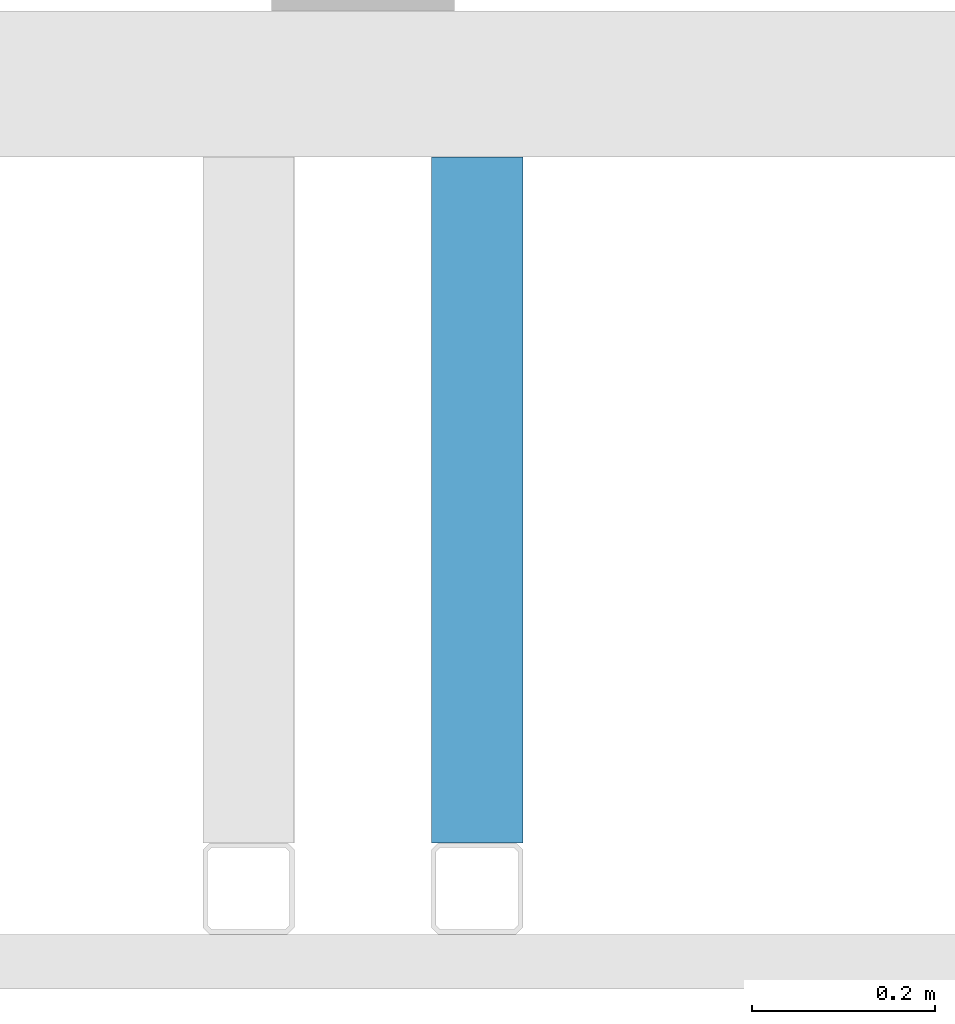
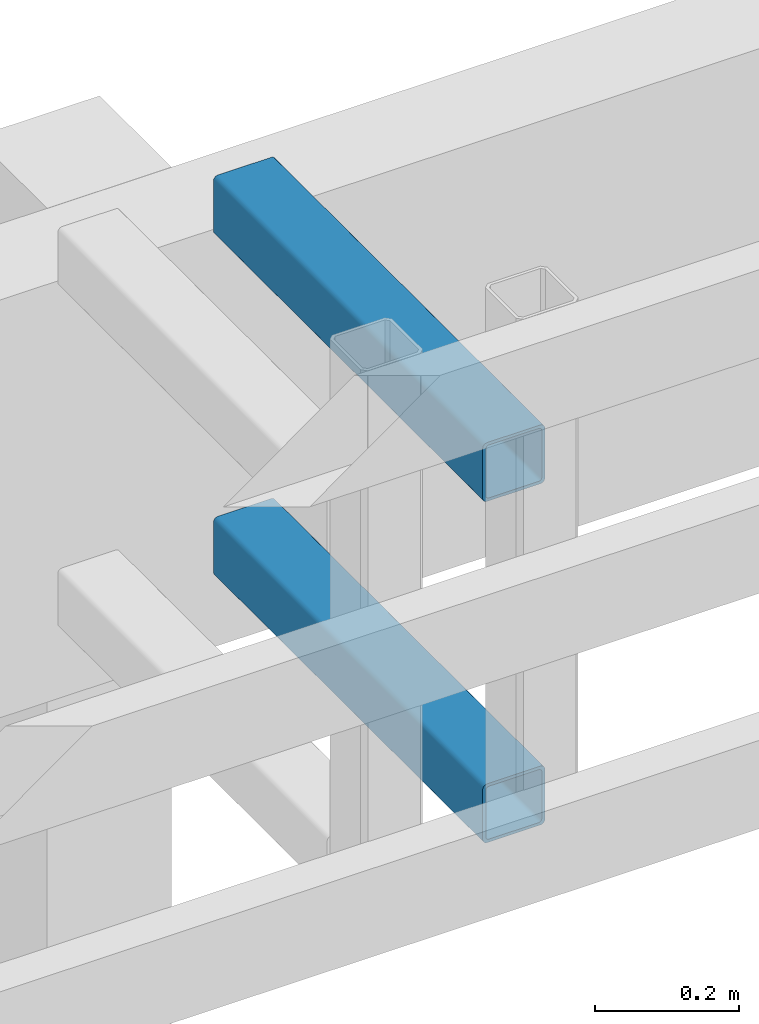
# One storey, part 27 of 42: 2 members.
"""IFC4 building model written with IfcOpenShell, lengths in metres."""

from ifc_helpers import new_model, entity, si_unit, converted_unit, derived_unit, frame, origin, place, context, subcontext, project, spatial, faceted_brep, material, element, save


model = new_model("IFC4")

# Units and contexts
model_context = context("Model", 3, precision=1e-05, world=origin())
plan_context = context("Plan", 2, precision=1e-05, world=origin())
body_context = subcontext(model_context, "Body", "Model", "MODEL_VIEW")
ifc_project = project(units=[si_unit("LENGTHUNIT", "METRE"), si_unit("AREAUNIT", "SQUARE_METRE"), si_unit("VOLUMEUNIT", "CUBIC_METRE"), si_unit("MASSUNIT", "GRAM", prefix="KILO"), converted_unit("PLANEANGLEUNIT", "DEGREE", entity("IfcPlaneAngleMeasure", 0.0174532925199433), si_unit("PLANEANGLEUNIT", "RADIAN"), dimensions=[0, 0, 0, 0, 0, 0, 0]), derived_unit("THERMALTRANSMITTANCEUNIT", [(si_unit("POWERUNIT", "WATT"), 1), (si_unit("THERMODYNAMICTEMPERATUREUNIT", "KELVIN"), -1), (si_unit("LENGTHUNIT", "METRE"), -2)]), derived_unit("VOLUMETRICFLOWRATEUNIT", [(si_unit("LENGTHUNIT", "METRE"), 3), (converted_unit("TIMEUNIT", "hour", entity("IfcTimeMeasure", 3600.0), si_unit("TIMEUNIT", "SECOND"), dimensions=[0, 0, 1, 0, 0, 0, 0]), -1), (si_unit("LENGTHUNIT", "METRE"), -1)])], contexts=[model_context, plan_context])

# Site, building, storey
site_placement = place(None, origin())
site = spatial("IfcSite", under=ifc_project, at=site_placement, Name="Site", CompositionType="ELEMENT")
building_placement = place(site_placement, origin())
building = spatial("IfcBuilding", under=site, at=building_placement, Name="Admin", CompositionType="ELEMENT")
storey_placement = place(building_placement, frame((0.0, 0.0, 6.61)))
storey = spatial("IfcBuildingStorey", under=building, at=storey_placement, Name="02-Etage2", CompositionType="ELEMENT", Elevation=6.61)

# Members
ifc_material_1 = material(Name="S235")
member_1_placement = place(storey_placement, frame((52.6248010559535, 11.1194493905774, 2.28)))
element("IfcMember", 1, at=member_1_placement, inside=storey, material=ifc_material_1, Name="Bandeau R+2", context=body_context, shape_type="Brep", body=[
    faceted_brep([(0.0950000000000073, 0.0, 0.09), (0.0950000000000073, 0.0, 0.01), (0.0950000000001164, 0.749999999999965, 0.01), (0.0950000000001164, 0.749999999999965, 0.09), (0.0949240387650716, 0.0, 0.0908682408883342), (0.0949240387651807, 0.749999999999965, 0.0908682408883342), (0.0946984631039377, 0.0, 0.0917101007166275), (0.0946984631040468, 0.749999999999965, 0.0917101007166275), (0.0943301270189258, 0.0, 0.0925), (0.094330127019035, 0.749999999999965, 0.0925), (0.0938302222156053, 0.0, 0.0932139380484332), (0.0938302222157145, 0.749999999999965, 0.0932139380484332), (0.0932139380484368, 1.81898940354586e-15, 0.0938302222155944), (0.093213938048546, 0.749999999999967, 0.0938302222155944), (0.0925000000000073, 1.81898940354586e-15, 0.0943301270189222), (0.0925000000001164, 0.749999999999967, 0.0943301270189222), (0.0917101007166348, 1.81898940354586e-15, 0.0946984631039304), (0.0917101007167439, 0.749999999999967, 0.0946984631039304), (0.0908682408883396, 1.81898940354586e-15, 0.0949240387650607), (0.0908682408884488, 0.749999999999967, 0.0949240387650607), (0.0900000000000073, 1.81898940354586e-15, 0.095), (0.0900000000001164, 0.749999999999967, 0.095), (0.0100000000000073, 1.2732925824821e-14, 0.095), (0.0100000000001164, 0.749999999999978, 0.095), (0.00913175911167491, 1.2732925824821e-14, 0.0949240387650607), (0.00913175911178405, 0.749999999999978, 0.0949240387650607), (0.00828989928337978, 1.2732925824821e-14, 0.0946984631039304), (0.00828989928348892, 0.749999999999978, 0.0946984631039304), (0.00750000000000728, 1.2732925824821e-14, 0.0943301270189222), (0.00750000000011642, 0.749999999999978, 0.0943301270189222), (0.00678606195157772, 1.2732925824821e-14, 0.0938302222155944), (0.00678606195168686, 0.749999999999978, 0.0938302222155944), (0.00616977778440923, 1.45519152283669e-14, 0.0932139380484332), (0.00616977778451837, 0.74999999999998, 0.0932139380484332), (0.0056698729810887, 1.45519152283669e-14, 0.0925), (0.00566987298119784, 0.74999999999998, 0.0925), (0.00530153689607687, 1.45519152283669e-14, 0.0917101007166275), (0.00530153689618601, 0.74999999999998, 0.0917101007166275), (0.00507596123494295, 1.45519152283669e-14, 0.0908682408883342), (0.00507596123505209, 0.74999999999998, 0.0908682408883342), (0.00500000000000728, 1.45519152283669e-14, 0.09), (0.00500000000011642, 0.74999999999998, 0.09), (0.00500000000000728, 1.45519152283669e-14, 0.01), (0.00500000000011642, 0.74999999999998, 0.01), (0.00507596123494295, 1.45519152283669e-14, 0.00913175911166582), (0.00507596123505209, 0.74999999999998, 0.00913175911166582), (0.00530153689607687, 1.45519152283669e-14, 0.00828989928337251), (0.00530153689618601, 0.74999999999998, 0.00828989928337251), (0.0056698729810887, 1.45519152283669e-14, 0.0075), (0.00566987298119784, 0.74999999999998, 0.0075), (0.00616977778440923, 1.45519152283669e-14, 0.00678606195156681), (0.00616977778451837, 0.74999999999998, 0.00678606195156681), (0.00678606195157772, 1.2732925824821e-14, 0.0061697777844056), (0.00678606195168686, 0.749999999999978, 0.0061697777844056), (0.00750000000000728, 1.2732925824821e-14, 0.00566987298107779), (0.00750000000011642, 0.749999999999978, 0.00566987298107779), (0.00828989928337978, 1.2732925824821e-14, 0.00530153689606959), (0.00828989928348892, 0.749999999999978, 0.00530153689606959), (0.00913175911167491, 1.2732925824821e-14, 0.00507596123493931), (0.00913175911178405, 0.749999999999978, 0.00507596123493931), (0.0100000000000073, 1.2732925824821e-14, 0.005), (0.0100000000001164, 0.749999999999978, 0.005), (0.0900000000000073, 1.81898940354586e-15, 0.005), (0.0900000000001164, 0.749999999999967, 0.005), (0.0908682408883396, 1.81898940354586e-15, 0.00507596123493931), (0.0908682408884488, 0.749999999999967, 0.00507596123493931), (0.0917101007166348, 1.81898940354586e-15, 0.00530153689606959), (0.0917101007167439, 0.749999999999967, 0.00530153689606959), (0.0925000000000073, 1.81898940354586e-15, 0.00566987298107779), (0.0925000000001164, 0.749999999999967, 0.00566987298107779), (0.0932139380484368, 1.81898940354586e-15, 0.0061697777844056), (0.093213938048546, 0.749999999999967, 0.0061697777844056), (0.0938302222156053, 0.0, 0.00678606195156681), (0.0938302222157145, 0.749999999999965, 0.00678606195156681), (0.0943301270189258, 0.0, 0.0075), (0.094330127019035, 0.749999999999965, 0.0075), (0.0946984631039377, 0.0, 0.00828989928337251), (0.0946984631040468, 0.749999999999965, 0.00828989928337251), (0.0949240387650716, 0.0, 0.00913175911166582), (0.0949240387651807, 0.749999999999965, 0.00913175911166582), (0.00750000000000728, 1.2732925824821e-14, 0.1), (0.00619763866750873, 1.45519152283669e-14, 0.099886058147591), (0.00619763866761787, 0.74999999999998, 0.099886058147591), (0.00750000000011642, 0.749999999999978, 0.1), (0.0925000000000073, 1.81898940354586e-15, 0.1), (0.0925000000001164, 0.749999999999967, 0.1), (0.0938023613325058, 0.0, 0.099886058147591), (0.093802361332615, 0.749999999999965, 0.099886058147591), (0.0950651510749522, 0.0, 0.0995476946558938), (0.0950651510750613, 0.749999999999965, 0.0995476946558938), (0.0962500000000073, 0.0, 0.0989951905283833), (0.0962500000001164, 0.749999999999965, 0.0989951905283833), (0.0973209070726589, 0.0, 0.0982453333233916), (0.097320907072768, 0.749999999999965, 0.0982453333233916), (0.0982453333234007, 0.0, 0.0973209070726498), (0.0982453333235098, 0.749999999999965, 0.0973209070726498), (0.0989951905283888, 0.0, 0.09625), (0.0989951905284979, 0.749999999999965, 0.09625), (0.0995476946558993, 0.0, 0.0950651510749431), (0.0995476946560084, 0.749999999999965, 0.0950651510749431), (0.0998860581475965, 0.0, 0.0938023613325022), (0.0998860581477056, 0.749999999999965, 0.0938023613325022), (0.100000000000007, 0.0, 0.0925), (0.100000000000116, 0.749999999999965, 0.0925), (0.0998860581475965, 0.0, 0.00619763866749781), (0.100000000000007, 0.0, 0.0075), (0.100000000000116, 0.749999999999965, 0.0075), (0.0998860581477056, 0.749999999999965, 0.00619763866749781), (0.0995476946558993, 0.0, 0.00493484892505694), (0.0995476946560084, 0.749999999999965, 0.00493484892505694), (0.0989951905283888, 0.0, 0.00375), (0.0989951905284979, 0.749999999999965, 0.00375), (0.0982453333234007, 0.0, 0.00267909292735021), (0.0982453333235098, 0.749999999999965, 0.00267909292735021), (0.0973209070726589, 0.0, 0.00175466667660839), (0.097320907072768, 0.749999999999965, 0.00175466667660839), (0.0962500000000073, 0.0, 0.00100480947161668), (0.0962500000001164, 0.749999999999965, 0.00100480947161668), (0.0950651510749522, 0.0, 0.000452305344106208), (0.0950651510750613, 0.749999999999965, 0.000452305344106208), (0.0938023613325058, 0.0, 0.000113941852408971), (0.093802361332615, 0.749999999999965, 0.000113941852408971), (0.0925000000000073, 1.81898940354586e-15, 0.0), (0.0925000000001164, 0.749999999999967, 0.0), (0.00750000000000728, 1.2732925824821e-14, 0.0), (0.00750000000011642, 0.749999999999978, 0.0), (0.00619763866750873, 1.45519152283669e-14, 0.000113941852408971), (0.00619763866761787, 0.74999999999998, 0.000113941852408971), (0.0049348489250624, 1.45519152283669e-14, 0.000452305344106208), (0.00493484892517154, 0.74999999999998, 0.000452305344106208), (0.00375000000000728, 1.45519152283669e-14, 0.00100480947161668), (0.00375000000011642, 0.74999999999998, 0.00100480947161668), (0.00267909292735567, 1.45519152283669e-14, 0.00175466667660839), (0.00267909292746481, 0.74999999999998, 0.00175466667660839), (0.00175466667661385, 1.45519152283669e-14, 0.00267909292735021), (0.00175466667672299, 0.74999999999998, 0.00267909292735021), (0.00100480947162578, 1.45519152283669e-14, 0.00375), (0.00100480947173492, 0.74999999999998, 0.00375), (0.000452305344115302, 1.45519152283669e-14, 0.00493484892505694), (0.000452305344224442, 0.74999999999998, 0.00493484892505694), (0.000113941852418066, 1.45519152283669e-14, 0.00619763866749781), (0.000113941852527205, 0.74999999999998, 0.00619763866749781), (7.27595761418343e-15, 0.0, 0.0075), (1.16415321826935e-13, 0.74999999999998, 0.0075), (0.000113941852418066, 1.45519152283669e-14, 0.0938023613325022), (7.27595761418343e-15, 0.0, 0.0925), (1.16415321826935e-13, 0.74999999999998, 0.0925), (0.000113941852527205, 0.74999999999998, 0.0938023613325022), (0.000452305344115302, 1.45519152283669e-14, 0.0950651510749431), (0.000452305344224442, 0.74999999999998, 0.0950651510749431), (0.00100480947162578, 1.45519152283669e-14, 0.09625), (0.00100480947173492, 0.74999999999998, 0.09625), (0.00175466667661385, 1.45519152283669e-14, 0.0973209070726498), (0.00175466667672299, 0.74999999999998, 0.0973209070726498), (0.00267909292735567, 1.45519152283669e-14, 0.0982453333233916), (0.00267909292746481, 0.74999999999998, 0.0982453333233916), (0.00375000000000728, 1.45519152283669e-14, 0.0989951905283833), (0.00375000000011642, 0.74999999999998, 0.0989951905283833), (0.0049348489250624, 1.45519152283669e-14, 0.0995476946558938), (0.00493484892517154, 0.74999999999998, 0.0995476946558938)], [[[0, 1, 2, 3]], [[4, 0, 3, 5]], [[6, 4, 5, 7]], [[8, 6, 7, 9]], [[10, 8, 9, 11]], [[12, 10, 11, 13]], [[14, 12, 13, 15]], [[16, 14, 15, 17]], [[18, 16, 17, 19]], [[20, 18, 19, 21]], [[22, 20, 21, 23]], [[24, 22, 23, 25]], [[26, 24, 25, 27]], [[28, 26, 27, 29]], [[30, 28, 29, 31]], [[32, 30, 31, 33]], [[34, 32, 33, 35]], [[36, 34, 35, 37]], [[38, 36, 37, 39]], [[40, 38, 39, 41]], [[42, 40, 41, 43]], [[44, 42, 43, 45]], [[46, 44, 45, 47]], [[48, 46, 47, 49]], [[50, 48, 49, 51]], [[52, 50, 51, 53]], [[54, 52, 53, 55]], [[56, 54, 55, 57]], [[58, 56, 57, 59]], [[60, 58, 59, 61]], [[62, 60, 61, 63]], [[64, 62, 63, 65]], [[66, 64, 65, 67]], [[68, 66, 67, 69]], [[70, 68, 69, 71]], [[72, 70, 71, 73]], [[74, 72, 73, 75]], [[76, 74, 75, 77]], [[78, 76, 77, 79]], [[1, 78, 79, 2]], [[80, 81, 82, 83]], [[84, 80, 83, 85]], [[86, 84, 85, 87]], [[88, 86, 87, 89]], [[90, 88, 89, 91]], [[92, 90, 91, 93]], [[94, 92, 93, 95]], [[96, 94, 95, 97]], [[98, 96, 97, 99]], [[100, 98, 99, 101]], [[102, 100, 101, 103]], [[104, 105, 106, 107]], [[108, 104, 107, 109]], [[110, 108, 109, 111]], [[112, 110, 111, 113]], [[114, 112, 113, 115]], [[116, 114, 115, 117]], [[118, 116, 117, 119]], [[120, 118, 119, 121]], [[122, 120, 121, 123]], [[124, 122, 123, 125]], [[126, 124, 125, 127]], [[128, 126, 127, 129]], [[130, 128, 129, 131]], [[132, 130, 131, 133]], [[134, 132, 133, 135]], [[136, 134, 135, 137]], [[138, 136, 137, 139]], [[140, 138, 139, 141]], [[142, 140, 141, 143]], [[144, 145, 146, 147]], [[148, 144, 147, 149]], [[150, 148, 149, 151]], [[152, 150, 151, 153]], [[154, 152, 153, 155]], [[156, 154, 155, 157]], [[158, 156, 157, 159]], [[81, 158, 159, 82]], [[146, 143, 141, 139, 137, 135, 133, 131, 129, 127, 125, 123, 121, 119, 117, 115, 113, 111, 109, 107, 106, 103, 101, 99, 97, 95, 93, 91, 89, 87, 85, 83, 82, 159, 157, 155, 153, 151, 149, 147], [2, 79, 77, 75, 73, 71, 69, 67, 65, 63, 61, 59, 57, 55, 53, 51, 49, 47, 45, 43, 41, 39, 37, 35, 33, 31, 29, 27, 25, 23, 21, 19, 17, 15, 13, 11, 9, 7, 5, 3]], [[103, 106, 105, 102]], [[102, 105, 104, 108, 110, 112, 114, 116, 118, 120, 122, 124, 126, 128, 130, 132, 134, 136, 138, 140, 142, 145, 144, 148, 150, 152, 154, 156, 158, 81, 80, 84, 86, 88, 90, 92, 94, 96, 98, 100], [1, 0, 4, 6, 8, 10, 12, 14, 16, 18, 20, 22, 24, 26, 28, 30, 32, 34, 36, 38, 40, 42, 44, 46, 48, 50, 52, 54, 56, 58, 60, 62, 64, 66, 68, 70, 72, 74, 76, 78]], [[145, 142, 143, 146]]], orient=[[False], [False], [False], [False], [False], [False], [False], [False], [False], [False], [False], [False], [False], [False], [False], [False], [False], [False], [False], [False], [False], [False], [False], [False], [False], [False], [False], [False], [False], [False], [False], [False], [False], [False], [False], [False], [False], [False], [False], [False], [False], [False], [False], [False], [False], [False], [False], [False], [False], [False], [False], [False], [False], [False], [False], [False], [False], [False], [False], [False], [False], [False], [False], [False], [False], [False], [False], [False], [False], [False], [False], [False], [False], [False], [False], [False], [False], [False], [False, False], [False], [False, False], [False]]),
])
ifc_material_2 = material(Name="S235")
member_2_placement = place(storey_placement, frame((52.6248010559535, 11.1194493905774, 2.86)))
element("IfcMember", 2, at=member_2_placement, inside=storey, material=ifc_material_2, Name="Bandeau R+2", context=body_context, shape_type="Brep", body=[
    faceted_brep([(0.0950000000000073, 0.0, 0.09), (0.0950000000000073, 0.0, 0.01), (0.0950000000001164, 0.74999999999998, 0.01), (0.0950000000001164, 0.74999999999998, 0.09), (0.0949240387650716, 0.0, 0.0908682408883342), (0.0949240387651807, 0.74999999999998, 0.0908682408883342), (0.0946984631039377, 0.0, 0.0917101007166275), (0.0946984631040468, 0.74999999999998, 0.0917101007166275), (0.0943301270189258, 0.0, 0.0925), (0.094330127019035, 0.74999999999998, 0.0925), (0.0938302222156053, 0.0, 0.0932139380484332), (0.0938302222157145, 0.74999999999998, 0.0932139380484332), (0.0932139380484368, 1.81898940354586e-15, 0.0938302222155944), (0.093213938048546, 0.749999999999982, 0.0938302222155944), (0.0925000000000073, 1.81898940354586e-15, 0.0943301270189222), (0.0925000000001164, 0.749999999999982, 0.0943301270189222), (0.0917101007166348, 1.81898940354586e-15, 0.0946984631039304), (0.0917101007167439, 0.749999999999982, 0.0946984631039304), (0.0908682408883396, 1.81898940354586e-15, 0.0949240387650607), (0.0908682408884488, 0.749999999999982, 0.0949240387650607), (0.0900000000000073, 1.81898940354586e-15, 0.095), (0.0900000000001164, 0.749999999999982, 0.095), (0.0100000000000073, 1.2732925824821e-14, 0.095), (0.0100000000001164, 0.749999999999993, 0.095), (0.00913175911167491, 1.2732925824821e-14, 0.0949240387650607), (0.00913175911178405, 0.749999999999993, 0.0949240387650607), (0.00828989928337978, 1.2732925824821e-14, 0.0946984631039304), (0.00828989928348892, 0.749999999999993, 0.0946984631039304), (0.00750000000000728, 1.2732925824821e-14, 0.0943301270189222), (0.00750000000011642, 0.749999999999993, 0.0943301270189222), (0.00678606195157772, 1.2732925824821e-14, 0.0938302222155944), (0.00678606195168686, 0.749999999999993, 0.0938302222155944), (0.00616977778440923, 1.45519152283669e-14, 0.0932139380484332), (0.00616977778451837, 0.749999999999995, 0.0932139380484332), (0.0056698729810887, 1.45519152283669e-14, 0.0925), (0.00566987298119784, 0.749999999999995, 0.0925), (0.00530153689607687, 1.45519152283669e-14, 0.0917101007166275), (0.00530153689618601, 0.749999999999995, 0.0917101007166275), (0.00507596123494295, 1.45519152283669e-14, 0.0908682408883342), (0.00507596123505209, 0.749999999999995, 0.0908682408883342), (0.00500000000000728, 1.45519152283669e-14, 0.09), (0.00500000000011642, 0.749999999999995, 0.09), (0.00500000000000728, 1.45519152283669e-14, 0.01), (0.00500000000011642, 0.749999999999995, 0.01), (0.00507596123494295, 1.45519152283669e-14, 0.00913175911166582), (0.00507596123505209, 0.749999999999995, 0.00913175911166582), (0.00530153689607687, 1.45519152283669e-14, 0.00828989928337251), (0.00530153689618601, 0.749999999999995, 0.00828989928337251), (0.0056698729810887, 1.45519152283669e-14, 0.0075), (0.00566987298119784, 0.749999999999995, 0.0075), (0.00616977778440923, 1.45519152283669e-14, 0.00678606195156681), (0.00616977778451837, 0.749999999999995, 0.00678606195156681), (0.00678606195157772, 1.2732925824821e-14, 0.0061697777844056), (0.00678606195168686, 0.749999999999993, 0.0061697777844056), (0.00750000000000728, 1.2732925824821e-14, 0.00566987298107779), (0.00750000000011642, 0.749999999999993, 0.00566987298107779), (0.00828989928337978, 1.2732925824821e-14, 0.00530153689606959), (0.00828989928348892, 0.749999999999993, 0.00530153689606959), (0.00913175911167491, 1.2732925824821e-14, 0.00507596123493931), (0.00913175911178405, 0.749999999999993, 0.00507596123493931), (0.0100000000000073, 1.2732925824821e-14, 0.005), (0.0100000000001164, 0.749999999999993, 0.005), (0.0900000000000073, 1.81898940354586e-15, 0.005), (0.0900000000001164, 0.749999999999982, 0.005), (0.0908682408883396, 1.81898940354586e-15, 0.00507596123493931), (0.0908682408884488, 0.749999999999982, 0.00507596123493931), (0.0917101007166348, 1.81898940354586e-15, 0.00530153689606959), (0.0917101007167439, 0.749999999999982, 0.00530153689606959), (0.0925000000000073, 1.81898940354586e-15, 0.00566987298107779), (0.0925000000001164, 0.749999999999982, 0.00566987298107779), (0.0932139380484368, 1.81898940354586e-15, 0.0061697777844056), (0.093213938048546, 0.749999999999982, 0.0061697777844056), (0.0938302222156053, 0.0, 0.00678606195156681), (0.0938302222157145, 0.74999999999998, 0.00678606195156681), (0.0943301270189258, 0.0, 0.0075), (0.094330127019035, 0.74999999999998, 0.0075), (0.0946984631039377, 0.0, 0.00828989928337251), (0.0946984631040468, 0.74999999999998, 0.00828989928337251), (0.0949240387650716, 0.0, 0.00913175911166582), (0.0949240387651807, 0.74999999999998, 0.00913175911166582), (0.00750000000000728, 1.2732925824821e-14, 0.1), (0.00619763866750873, 1.45519152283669e-14, 0.099886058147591), (0.00619763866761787, 0.749999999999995, 0.099886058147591), (0.00750000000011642, 0.749999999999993, 0.1), (0.0925000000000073, 1.81898940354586e-15, 0.1), (0.0925000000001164, 0.749999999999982, 0.1), (0.0938023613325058, 0.0, 0.099886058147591), (0.093802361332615, 0.74999999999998, 0.099886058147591), (0.0950651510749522, 0.0, 0.0995476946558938), (0.0950651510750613, 0.74999999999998, 0.0995476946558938), (0.0962500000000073, 0.0, 0.0989951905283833), (0.0962500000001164, 0.74999999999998, 0.0989951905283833), (0.0973209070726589, 0.0, 0.0982453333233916), (0.097320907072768, 0.74999999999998, 0.0982453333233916), (0.0982453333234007, 0.0, 0.0973209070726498), (0.0982453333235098, 0.74999999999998, 0.0973209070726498), (0.0989951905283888, 0.0, 0.09625), (0.0989951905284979, 0.74999999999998, 0.09625), (0.0995476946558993, 0.0, 0.0950651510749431), (0.0995476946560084, 0.74999999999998, 0.0950651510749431), (0.0998860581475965, 0.0, 0.0938023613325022), (0.0998860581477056, 0.74999999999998, 0.0938023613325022), (0.100000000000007, 0.0, 0.0925), (0.100000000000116, 0.74999999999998, 0.0925), (0.0998860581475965, 0.0, 0.00619763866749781), (0.100000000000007, 0.0, 0.0075), (0.100000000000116, 0.74999999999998, 0.0075), (0.0998860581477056, 0.74999999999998, 0.00619763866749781), (0.0995476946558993, 0.0, 0.00493484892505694), (0.0995476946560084, 0.74999999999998, 0.00493484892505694), (0.0989951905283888, 0.0, 0.00375), (0.0989951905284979, 0.74999999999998, 0.00375), (0.0982453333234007, 0.0, 0.00267909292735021), (0.0982453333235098, 0.74999999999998, 0.00267909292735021), (0.0973209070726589, 0.0, 0.00175466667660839), (0.097320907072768, 0.74999999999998, 0.00175466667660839), (0.0962500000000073, 0.0, 0.00100480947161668), (0.0962500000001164, 0.74999999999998, 0.00100480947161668), (0.0950651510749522, 0.0, 0.000452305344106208), (0.0950651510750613, 0.74999999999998, 0.000452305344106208), (0.0938023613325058, 0.0, 0.000113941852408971), (0.093802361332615, 0.74999999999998, 0.000113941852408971), (0.0925000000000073, 1.81898940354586e-15, 0.0), (0.0925000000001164, 0.749999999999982, 0.0), (0.00750000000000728, 1.2732925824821e-14, 0.0), (0.00750000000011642, 0.749999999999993, 0.0), (0.00619763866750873, 1.45519152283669e-14, 0.000113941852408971), (0.00619763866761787, 0.749999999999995, 0.000113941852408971), (0.0049348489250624, 1.45519152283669e-14, 0.000452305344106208), (0.00493484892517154, 0.749999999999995, 0.000452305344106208), (0.00375000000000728, 1.45519152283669e-14, 0.00100480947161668), (0.00375000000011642, 0.749999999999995, 0.00100480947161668), (0.00267909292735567, 1.45519152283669e-14, 0.00175466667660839), (0.00267909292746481, 0.749999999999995, 0.00175466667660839), (0.00175466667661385, 1.45519152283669e-14, 0.00267909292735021), (0.00175466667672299, 0.749999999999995, 0.00267909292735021), (0.00100480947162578, 1.45519152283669e-14, 0.00375), (0.00100480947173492, 0.749999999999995, 0.00375), (0.000452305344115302, 1.45519152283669e-14, 0.00493484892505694), (0.000452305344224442, 0.749999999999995, 0.00493484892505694), (0.000113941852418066, 1.45519152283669e-14, 0.00619763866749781), (0.000113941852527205, 0.749999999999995, 0.00619763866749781), (7.27595761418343e-15, 0.0, 0.0075), (1.16415321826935e-13, 0.749999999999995, 0.0075), (0.000113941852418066, 1.45519152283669e-14, 0.0938023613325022), (7.27595761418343e-15, 0.0, 0.0925), (1.16415321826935e-13, 0.749999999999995, 0.0925), (0.000113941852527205, 0.749999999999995, 0.0938023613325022), (0.000452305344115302, 1.45519152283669e-14, 0.0950651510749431), (0.000452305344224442, 0.749999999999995, 0.0950651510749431), (0.00100480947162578, 1.45519152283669e-14, 0.09625), (0.00100480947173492, 0.749999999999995, 0.09625), (0.00175466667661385, 1.45519152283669e-14, 0.0973209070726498), (0.00175466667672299, 0.749999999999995, 0.0973209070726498), (0.00267909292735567, 1.45519152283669e-14, 0.0982453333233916), (0.00267909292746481, 0.749999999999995, 0.0982453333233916), (0.00375000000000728, 1.45519152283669e-14, 0.0989951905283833), (0.00375000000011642, 0.749999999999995, 0.0989951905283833), (0.0049348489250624, 1.45519152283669e-14, 0.0995476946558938), (0.00493484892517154, 0.749999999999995, 0.0995476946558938)], [[[0, 1, 2, 3]], [[4, 0, 3, 5]], [[6, 4, 5, 7]], [[8, 6, 7, 9]], [[10, 8, 9, 11]], [[12, 10, 11, 13]], [[14, 12, 13, 15]], [[16, 14, 15, 17]], [[18, 16, 17, 19]], [[20, 18, 19, 21]], [[22, 20, 21, 23]], [[24, 22, 23, 25]], [[26, 24, 25, 27]], [[28, 26, 27, 29]], [[30, 28, 29, 31]], [[32, 30, 31, 33]], [[34, 32, 33, 35]], [[36, 34, 35, 37]], [[38, 36, 37, 39]], [[40, 38, 39, 41]], [[42, 40, 41, 43]], [[44, 42, 43, 45]], [[46, 44, 45, 47]], [[48, 46, 47, 49]], [[50, 48, 49, 51]], [[52, 50, 51, 53]], [[54, 52, 53, 55]], [[56, 54, 55, 57]], [[58, 56, 57, 59]], [[60, 58, 59, 61]], [[62, 60, 61, 63]], [[64, 62, 63, 65]], [[66, 64, 65, 67]], [[68, 66, 67, 69]], [[70, 68, 69, 71]], [[72, 70, 71, 73]], [[74, 72, 73, 75]], [[76, 74, 75, 77]], [[78, 76, 77, 79]], [[1, 78, 79, 2]], [[80, 81, 82, 83]], [[84, 80, 83, 85]], [[86, 84, 85, 87]], [[88, 86, 87, 89]], [[90, 88, 89, 91]], [[92, 90, 91, 93]], [[94, 92, 93, 95]], [[96, 94, 95, 97]], [[98, 96, 97, 99]], [[100, 98, 99, 101]], [[102, 100, 101, 103]], [[104, 105, 106, 107]], [[108, 104, 107, 109]], [[110, 108, 109, 111]], [[112, 110, 111, 113]], [[114, 112, 113, 115]], [[116, 114, 115, 117]], [[118, 116, 117, 119]], [[120, 118, 119, 121]], [[122, 120, 121, 123]], [[124, 122, 123, 125]], [[126, 124, 125, 127]], [[128, 126, 127, 129]], [[130, 128, 129, 131]], [[132, 130, 131, 133]], [[134, 132, 133, 135]], [[136, 134, 135, 137]], [[138, 136, 137, 139]], [[140, 138, 139, 141]], [[142, 140, 141, 143]], [[144, 145, 146, 147]], [[148, 144, 147, 149]], [[150, 148, 149, 151]], [[152, 150, 151, 153]], [[154, 152, 153, 155]], [[156, 154, 155, 157]], [[158, 156, 157, 159]], [[81, 158, 159, 82]], [[146, 143, 141, 139, 137, 135, 133, 131, 129, 127, 125, 123, 121, 119, 117, 115, 113, 111, 109, 107, 106, 103, 101, 99, 97, 95, 93, 91, 89, 87, 85, 83, 82, 159, 157, 155, 153, 151, 149, 147], [2, 79, 77, 75, 73, 71, 69, 67, 65, 63, 61, 59, 57, 55, 53, 51, 49, 47, 45, 43, 41, 39, 37, 35, 33, 31, 29, 27, 25, 23, 21, 19, 17, 15, 13, 11, 9, 7, 5, 3]], [[103, 106, 105, 102]], [[102, 105, 104, 108, 110, 112, 114, 116, 118, 120, 122, 124, 126, 128, 130, 132, 134, 136, 138, 140, 142, 145, 144, 148, 150, 152, 154, 156, 158, 81, 80, 84, 86, 88, 90, 92, 94, 96, 98, 100], [1, 0, 4, 6, 8, 10, 12, 14, 16, 18, 20, 22, 24, 26, 28, 30, 32, 34, 36, 38, 40, 42, 44, 46, 48, 50, 52, 54, 56, 58, 60, 62, 64, 66, 68, 70, 72, 74, 76, 78]], [[145, 142, 143, 146]]], orient=[[False], [False], [False], [False], [False], [False], [False], [False], [False], [False], [False], [False], [False], [False], [False], [False], [False], [False], [False], [False], [False], [False], [False], [False], [False], [False], [False], [False], [False], [False], [False], [False], [False], [False], [False], [False], [False], [False], [False], [False], [False], [False], [False], [False], [False], [False], [False], [False], [False], [False], [False], [False], [False], [False], [False], [False], [False], [False], [False], [False], [False], [False], [False], [False], [False], [False], [False], [False], [False], [False], [False], [False], [False], [False], [False], [False], [False], [False], [False, False], [False], [False, False], [False]]),
])

save(model, "model.ifc")
